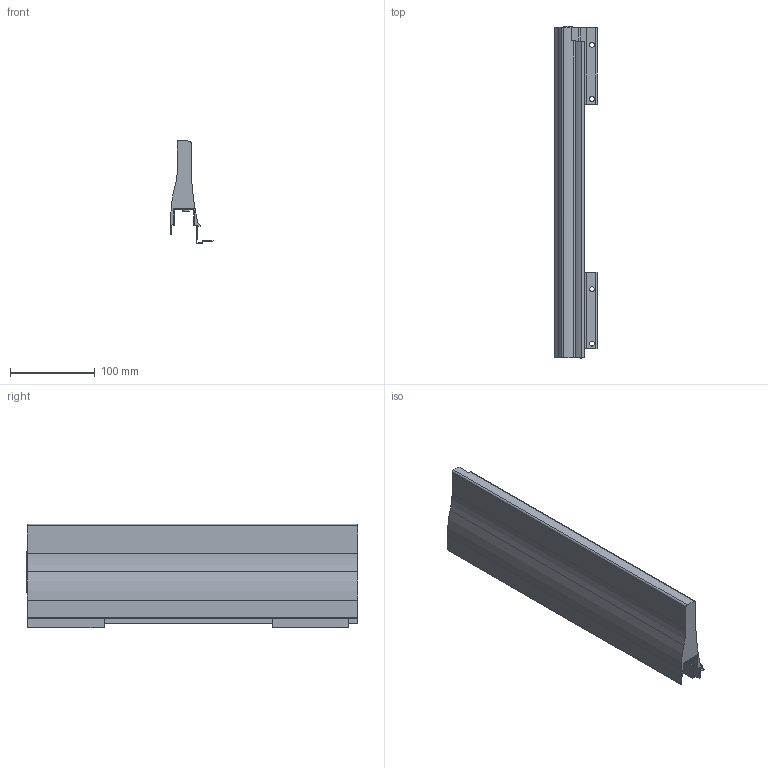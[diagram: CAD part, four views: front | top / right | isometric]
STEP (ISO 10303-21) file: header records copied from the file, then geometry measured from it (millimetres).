
FILE_DESCRIPTION (( 'STEP AP214' ), '1' );
FILE_NAME ('XP Standard Dekorseite H127 NL400 LI .step', '2010-09-21T09:46:24', ( 'grass' ), ( '' ), 'SwSTEP 2.0', 'SolidWorks 2010', '' );
FILE_SCHEMA (( 'AUTOMOTIVE_DESIGN' ));
Length unit declared in the file: millimetre
Products named in the file (1): XP Standard Dekorseite H127 NL400 LI  
Bounding box: 50.01 x 391.5 x 122 mm (x, y, z)
Volume: 669801 mm3; surface area: 151805 mm2
Topology: 1 solids, 1 shells, 107 faces, 312 edges, 204 vertices
Faces by surface type: plane 81, cylinder 26
Entity records: 3562 total; most frequent: CARTESIAN_POINT 624, ORIENTED_EDGE 624, DIRECTION 582, EDGE_CURVE 312, LINE 258, VECTOR 258, VERTEX_POINT 204, AXIS2_PLACEMENT_3D 162
